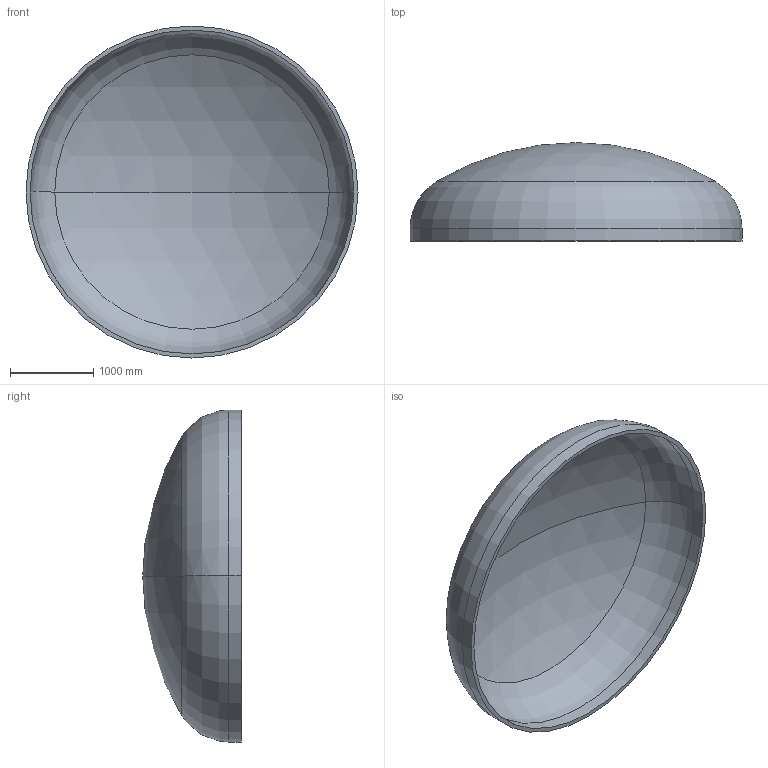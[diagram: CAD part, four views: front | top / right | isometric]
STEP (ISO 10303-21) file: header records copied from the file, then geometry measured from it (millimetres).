
FILE_DESCRIPTION (( 'STEP AP203' ), '1' );
FILE_NAME ('DIN 28013 Korbbogenform_-_Boden DIN 28013 - 4000 x 150 - I - s=49.step', '2016-07-01T22:29:10', ( '' ), ( '' ), 'SwSTEP 2.0', 'SolidWorks 2013', '' );
FILE_SCHEMA (( 'CONFIG_CONTROL_DESIGN' ));
Length unit declared in the file: millimetre
Products named in the file (1): DIN 28013 Korbbogenform_-_Boden DIN 28013 - 4000 x 150 - I - s=49
Bounding box: 4000 x 1186.01 x 4000 mm (x, y, z)
Volume: 930070991.7 mm3; surface area: 38575305.6 mm2
Topology: 1 solids, 1 shells, 13 faces, 24 edges, 14 vertices
Faces by surface type: torus 4, cylinder 4, sphere 4, plane 1
Entity records: 407 total; most frequent: DIRECTION 72, CARTESIAN_POINT 52, ORIENTED_EDGE 48, AXIS2_PLACEMENT_3D 34, EDGE_CURVE 24, CIRCLE 20, EDGE_LOOP 14, VERTEX_POINT 14
